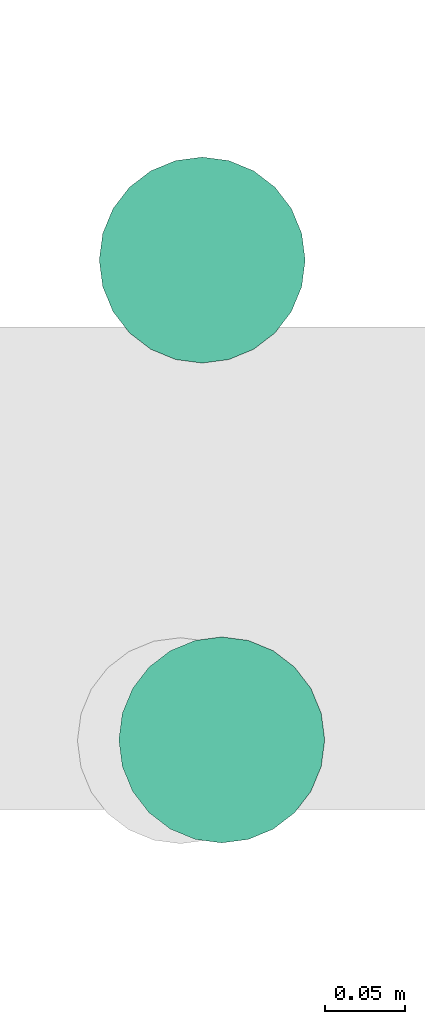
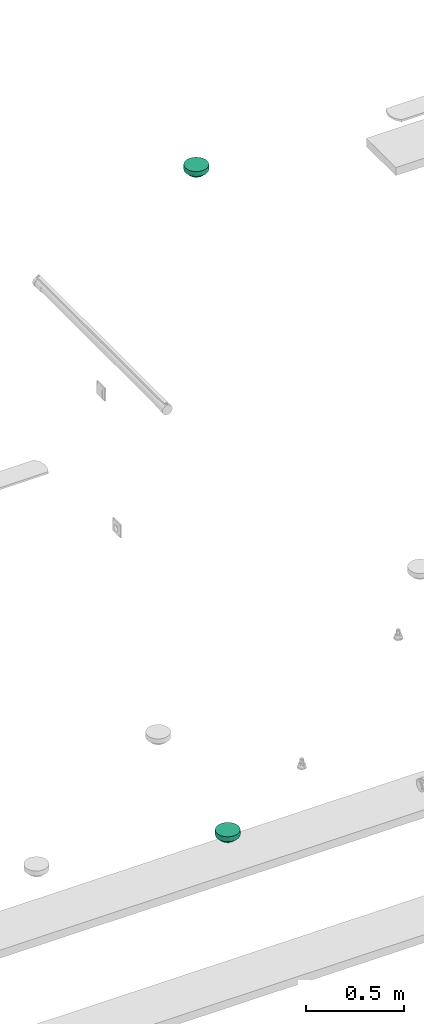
# One storey, part 66 of 153: 4 flow terminals.
"""IFC2X3 building model written with IfcOpenShell, lengths in metres."""

from ifc_helpers import new_model, entity, si_unit, converted_unit, derived_unit, direction, frame, origin, place, context, subcontext, project, spatial, faceted_brep, source, transform, mapped, type_object, type_shapes, element, save


model = new_model("IFC2X3")

# Units and contexts
model_context = context("Model", 3, precision=1e-05, world=origin(), true_north=direction((6.12303176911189e-17, 1.0)))
body_context = subcontext(model_context, "Body", "Model", "MODEL_VIEW")
ifc_project = project(units=[si_unit("LENGTHUNIT", "METRE"), si_unit("AREAUNIT", "SQUARE_METRE"), si_unit("VOLUMEUNIT", "CUBIC_METRE"), converted_unit("PLANEANGLEUNIT", "DEGREE", entity("IfcRatioMeasure", 0.0174532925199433), si_unit("PLANEANGLEUNIT", "RADIAN"), dimensions=[0, 0, 0, 0, 0, 0, 0]), si_unit("MASSUNIT", "GRAM", prefix="KILO"), derived_unit("MASSDENSITYUNIT", [(si_unit("MASSUNIT", "GRAM", prefix="KILO"), 1), (si_unit("LENGTHUNIT", "METRE"), -3)]), si_unit("TIMEUNIT", "SECOND"), si_unit("FREQUENCYUNIT", "HERTZ"), si_unit("THERMODYNAMICTEMPERATUREUNIT", "DEGREE_CELSIUS"), derived_unit("THERMALTRANSMITTANCEUNIT", [(si_unit("MASSUNIT", "GRAM", prefix="KILO"), 1), (si_unit("THERMODYNAMICTEMPERATUREUNIT", "KELVIN"), -1), (si_unit("TIMEUNIT", "SECOND"), -3)]), derived_unit("VOLUMETRICFLOWRATEUNIT", [(si_unit("LENGTHUNIT", "METRE"), 3), (si_unit("TIMEUNIT", "SECOND"), -1)]), si_unit("ELECTRICCURRENTUNIT", "AMPERE"), si_unit("ELECTRICVOLTAGEUNIT", "VOLT"), si_unit("POWERUNIT", "WATT"), si_unit("FORCEUNIT", "NEWTON"), si_unit("ILLUMINANCEUNIT", "LUX"), si_unit("LUMINOUSFLUXUNIT", "LUMEN"), si_unit("LUMINOUSINTENSITYUNIT", "CANDELA"), derived_unit("USERDEFINED", [(si_unit("MASSUNIT", "GRAM", prefix="KILO"), -1), (si_unit("LENGTHUNIT", "METRE"), -2), (si_unit("TIMEUNIT", "SECOND"), 3), (si_unit("LUMINOUSFLUXUNIT", "LUMEN"), 1)]), derived_unit("LINEARVELOCITYUNIT", [(si_unit("LENGTHUNIT", "METRE"), 1), (si_unit("TIMEUNIT", "SECOND"), -1)]), si_unit("PRESSUREUNIT", "PASCAL"), derived_unit("USERDEFINED", [(si_unit("LENGTHUNIT", "METRE"), -2), (si_unit("MASSUNIT", "GRAM", prefix="KILO"), 1), (si_unit("TIMEUNIT", "SECOND"), -2)])], contexts=[model_context])

# Site, building, storey
site_placement = place(None, origin())
site = spatial("IfcSite", under=ifc_project, at=site_placement, Name="Default", CompositionType="ELEMENT")
building_placement = place(site_placement, origin())
building = spatial("IfcBuilding", under=site, at=building_placement, CompositionType="ELEMENT")
storey_placement = place(building_placement, frame((0.0, 0.0, -4.62)))
storey = spatial("IfcBuildingStorey", under=building, at=storey_placement, Name="S02", CompositionType="ELEMENT", Elevation=-4.62)

# Flow terminals
light_fixture_type = type_object("IfcLightFixtureType", Name="Détecteur 360°", PredefinedType="NOTDEFINED")
shared_shape = source(origin(), body_context, "Body", "Brep", [
    faceted_brep([(0.0, -0.0397165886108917, 0.0531256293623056), (0.0, -0.034524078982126, 0.0563702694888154), (-0.0175153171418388, -0.0435914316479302, 0.0478512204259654), (-0.0194029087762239, -0.000878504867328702, 0.0644483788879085), (0.0, 0.0, 0.0669999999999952), (0.0, 0.00603476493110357, 0.0659648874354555), (-0.0174057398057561, -0.0159851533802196, 0.0630502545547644), (-0.0366619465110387, -0.0127227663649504, 0.0549213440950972), (-0.026998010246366, -0.0195753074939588, 0.0584711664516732), (-0.0202403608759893, -0.0335607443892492, 0.054639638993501), (-0.0359767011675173, -0.0348394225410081, 0.0444249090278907), (-0.0276843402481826, -0.0401006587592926, 0.0459804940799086), (-0.0133088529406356, -0.0517577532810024, 0.0400582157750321), (-0.0172617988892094, -0.0486391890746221, 0.042533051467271), (-0.0256912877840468, -0.0533485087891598, 0.0299999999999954), (-0.0462941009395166, -0.0369183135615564, 0.0299999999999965), (0.0, -0.0241390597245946, 0.0628595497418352), (-0.0186245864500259, -0.0267295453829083, 0.0589100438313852), (-0.0139070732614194, -0.0374370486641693, 0.0540817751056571), (0.0, 0.0449090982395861, 0.049880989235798), (-0.0172618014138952, 0.0486391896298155, 0.0425330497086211), (0.0, 0.0397165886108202, 0.0531256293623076), (-0.0186245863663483, 0.0267295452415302, 0.0589100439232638), (-0.0202403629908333, 0.0335607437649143, 0.054639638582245), (-0.0353547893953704, 0.0284533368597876, 0.0494330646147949), (0.0, 0.0120695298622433, 0.0649297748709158), (-0.0249385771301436, 0.0204731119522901, 0.0590841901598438), (-0.0191783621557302, 0.0150189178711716, 0.062775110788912), (-0.0465404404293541, -0.0196510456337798, 0.0438984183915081), (-0.052010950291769, -0.0250471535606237, 0.029999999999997), (-0.0453471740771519, -0.0286501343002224, 0.0397747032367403), (-0.0365036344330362, -0.0226255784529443, 0.0516441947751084), (-0.0175153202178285, 0.0435914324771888, 0.0478512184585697), (-0.0359926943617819, 0.0451334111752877, 0.0299999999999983), (-0.0276843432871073, 0.0401006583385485, 0.0459804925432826), (-0.00849704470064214, -0.0572729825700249, 0.0299999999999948), (0.0, -0.0592123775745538, 0.0299999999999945), (0.0, -0.0545512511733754, 0.0364787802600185), (0.0, -0.049890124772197, 0.0429575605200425), (-0.0169940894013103, -0.055333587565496, 0.0299999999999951), (-0.0359767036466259, 0.0348394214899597, 0.0444249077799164), (-0.025691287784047, 0.0533485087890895, 0.0299999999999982), (-0.0308419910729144, 0.0492409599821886, 0.0299999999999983), (-0.0130265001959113, 0.0514867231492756, 0.040526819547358), (-0.0169940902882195, 0.0553335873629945, 0.029999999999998), (0.0, 0.0498901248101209, 0.0429575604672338), (-0.0353547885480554, -0.0284533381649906, 0.0494330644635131), (0.0, 0.0181042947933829, 0.0638946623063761), (-0.0473669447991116, -0.00128092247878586, 0.0474310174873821), (-0.0485435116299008, -0.00908961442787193, 0.0452357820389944), (-0.0366597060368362, -0.0032867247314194, 0.0563153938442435), (-0.0226425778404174, -0.0107553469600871, 0.0624973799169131), (0.0, -0.00603476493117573, 0.0659648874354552), (0.0, 0.0293315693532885, 0.0596149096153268), (-0.0139070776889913, 0.0374370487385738, 0.0540817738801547), (-0.0449600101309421, 0.018422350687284, 0.0461366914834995), (-0.0453471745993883, 0.0286501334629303, 0.0397747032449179), (-0.0476906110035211, 0.00670602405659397, 0.0466053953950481), (-0.0577277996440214, 0.0131759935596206, 0.0299999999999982), (-0.0577277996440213, 0.00658799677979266, 0.029999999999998), (-0.0577277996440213, 0.0, 0.0299999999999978), (0.0, -0.0449090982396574, 0.0498809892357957), (-0.0308419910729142, -0.049240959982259, 0.0299999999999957), (-0.0359926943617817, -0.0451334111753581, 0.029999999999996), (0.0, 0.0345240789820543, 0.0563702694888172), (-0.0411433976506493, 0.0410258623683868, 0.0299999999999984), (-0.0462941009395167, 0.0369183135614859, 0.0299999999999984), (-0.0491525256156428, -0.03098273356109, 0.0299999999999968), (-0.0577277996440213, -0.0131759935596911, 0.0299999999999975), (0.0, -0.018104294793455, 0.0638946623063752), (-0.0377433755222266, 0.0044838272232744, 0.0554913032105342), (-0.0577277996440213, -0.00658799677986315, 0.0299999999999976), (-0.0385149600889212, 0.0124844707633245, 0.0536578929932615), (-0.0491525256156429, 0.0309827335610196, 0.0299999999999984), (-0.0548693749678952, 0.0191115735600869, 0.0299999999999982), (0.0, 0.0241390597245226, 0.0628595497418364), (-0.014625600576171, 0.0100436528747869, 0.0649170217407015), (-0.0271766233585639, 0.00920278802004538, 0.0609170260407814), (0.0, -0.0120695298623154, 0.0649297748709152), (-0.0520109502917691, 0.0250471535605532, 0.0299999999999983), (-0.0411433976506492, -0.0410258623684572, 0.0299999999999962), (-0.0548693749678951, -0.0191115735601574, 0.0299999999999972), (0.0, -0.0293315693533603, 0.0596149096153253), (0.0, 0.0545512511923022, 0.0364787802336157), (0.0, 0.0592123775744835, 0.0299999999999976), (-0.00849704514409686, 0.057272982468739, 0.0299999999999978), (-0.0127455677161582, 0.0563032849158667, 0.0299999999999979), (-0.0213426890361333, 0.054341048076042, 0.0299999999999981), (0.0175153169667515, 0.0435914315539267, 0.0478512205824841), (0.0194029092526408, 0.000878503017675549, 0.0644483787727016), (0.017405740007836, 0.0159851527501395, 0.0630502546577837), (0.0366619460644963, 0.012722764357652, 0.0549213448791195), (0.0269980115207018, 0.0195753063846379, 0.0584711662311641), (0.0202403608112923, 0.0335607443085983, 0.0546396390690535), (0.0359767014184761, 0.0348394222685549, 0.0444249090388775), (0.0276843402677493, 0.0401006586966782, 0.0459804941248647), (0.0133088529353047, 0.0517577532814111, 0.0400582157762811), (0.0172617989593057, 0.0486391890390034, 0.0425330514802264), (0.0256912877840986, 0.0533485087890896, 0.0299999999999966), (0.0462941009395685, 0.0369183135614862, 0.0299999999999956), (0.00849704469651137, 0.0572729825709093, 0.0299999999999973), (0.0169940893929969, 0.0553335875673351, 0.029999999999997), (0.0172617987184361, -0.0486391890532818, 0.0425330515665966), (0.025691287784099, -0.0533485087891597, 0.0299999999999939), (0.0308419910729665, -0.0492409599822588, 0.0299999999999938), (0.0175153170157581, -0.0435914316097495, 0.0478512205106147), (0.0186245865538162, -0.0267295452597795, 0.0589100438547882), (0.0202403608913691, -0.03356074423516, 0.0546396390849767), (0.0353547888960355, -0.0284533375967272, 0.0494330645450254), (0.0249385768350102, -0.0204731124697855, 0.0590841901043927), (0.0191783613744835, -0.0150189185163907, 0.062775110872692), (0.0465404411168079, 0.0196510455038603, 0.0438984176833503), (0.0577277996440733, 0.0131759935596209, 0.0299999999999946), (0.0548693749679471, 0.0191115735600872, 0.0299999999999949), (0.0520109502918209, 0.0250471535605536, 0.0299999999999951), (0.0365036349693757, 0.0226255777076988, 0.0516441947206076), (0.0186245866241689, 0.0267295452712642, 0.0589100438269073), (0.0359926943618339, -0.0451334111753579, 0.0299999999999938), (0.0276843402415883, -0.0401006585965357, 0.0459804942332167), (0.0139070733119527, 0.0374370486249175, 0.0540817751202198), (0.0359767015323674, -0.0348394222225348, 0.044424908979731), (0.0226425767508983, 0.0107553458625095, 0.0624973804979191), (0.0169940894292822, -0.0553335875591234, 0.0299999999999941), (0.0130264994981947, -0.0514867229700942, 0.0405268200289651), (0.0453471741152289, 0.0286501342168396, 0.039774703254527), (0.0353547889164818, 0.0284533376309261, 0.0494330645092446), (0.0473669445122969, 0.00128092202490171, 0.0474310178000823), (0.0485435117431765, 0.00908961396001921, 0.0452357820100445), (0.0366597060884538, 0.00328672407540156, 0.0563153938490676), (0.0139070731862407, -0.0374370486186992, 0.0540817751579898), (0.0449600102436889, -0.018422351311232, 0.0461366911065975), (0.0453471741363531, -0.0286501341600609, 0.039774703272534), (0.0476906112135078, -0.00670602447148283, 0.046605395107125), (0.0577277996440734, -0.0131759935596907, 0.0299999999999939), (0.0577277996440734, -0.00658799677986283, 0.0299999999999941), (0.0577277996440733, 0.0, 0.0299999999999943), (0.0308419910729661, 0.0492409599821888, 0.0299999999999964), (0.0359926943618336, 0.0451334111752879, 0.0299999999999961), (0.0411433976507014, -0.041025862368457, 0.0299999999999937), (0.0462941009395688, -0.0369183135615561, 0.0299999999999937), (0.0491525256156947, 0.0309827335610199, 0.0299999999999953), (0.037743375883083, -0.00448382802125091, 0.0554913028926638), (0.0577277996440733, 0.00658799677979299, 0.0299999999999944), (0.0385149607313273, -0.0124844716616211, 0.0536578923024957), (0.049152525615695, -0.0309827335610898, 0.0299999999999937), (0.0548693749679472, -0.0191115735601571, 0.0299999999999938), (0.0146256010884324, -0.0100436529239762, 0.0649170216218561), (0.0271766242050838, -0.00920278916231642, 0.0609170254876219), (0.0520109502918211, -0.0250471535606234, 0.0299999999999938), (0.041143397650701, 0.0410258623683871, 0.0299999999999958), (0.00849704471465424, -0.0572729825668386, 0.0299999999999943), (0.0127455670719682, -0.056303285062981, 0.0299999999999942), (0.0213426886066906, -0.0543410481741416, 0.029999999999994), (0.0, 0.0, 0.0299999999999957)], [[[0, 1, 2]], [[3, 4, 5]], [[6, 7, 8]], [[9, 10, 11]], [[12, 13, 14]], [[10, 15, 11]], [[9, 16, 17]], [[18, 9, 11]], [[19, 20, 21]], [[22, 23, 24]], [[25, 26, 27]], [[28, 29, 30]], [[8, 31, 17]], [[32, 33, 34]], [[35, 36, 37, 38, 39]], [[23, 40, 24]], [[20, 41, 42]], [[19, 43, 20]], [[44, 43, 45]], [[20, 32, 21]], [[30, 10, 46]], [[22, 26, 47]], [[48, 49, 50]], [[3, 51, 52]], [[53, 54, 23]], [[55, 24, 56]], [[57, 58, 59, 60]], [[13, 61, 0]], [[13, 0, 2]], [[2, 62, 13]], [[18, 2, 1]], [[2, 11, 63]], [[32, 64, 21]], [[32, 42, 33]], [[34, 33, 65, 66]], [[20, 42, 32]], [[54, 32, 34]], [[28, 30, 31]], [[10, 67, 15]], [[49, 68, 28]], [[8, 17, 69]], [[7, 6, 51]], [[28, 31, 7]], [[57, 48, 70]], [[58, 57, 55]], [[48, 71, 49]], [[70, 48, 50]], [[3, 50, 51]], [[55, 26, 24]], [[72, 57, 70]], [[26, 55, 72]], [[56, 40, 73]], [[56, 74, 55]], [[47, 75, 22]], [[52, 4, 3]], [[7, 50, 49]], [[5, 76, 3]], [[70, 3, 77]], [[51, 78, 52]], [[26, 25, 47]], [[76, 25, 27]], [[23, 22, 75]], [[26, 22, 24]], [[53, 64, 54]], [[23, 34, 40]], [[66, 40, 34]], [[40, 66, 73]], [[56, 73, 79, 74]], [[72, 27, 26]], [[40, 56, 24]], [[23, 75, 53]], [[69, 17, 16]], [[78, 6, 69]], [[46, 10, 9]], [[46, 9, 17]], [[50, 7, 51]], [[30, 29, 67]], [[80, 63, 11, 15]], [[28, 68, 81, 29]], [[10, 30, 67]], [[30, 46, 31]], [[82, 18, 1]], [[82, 16, 9]], [[28, 7, 49]], [[12, 39, 38]], [[61, 13, 12]], [[83, 84, 85, 86, 44, 45]], [[43, 41, 20]], [[44, 87, 41, 43]], [[32, 54, 64]], [[23, 54, 34]], [[9, 18, 82]], [[2, 18, 11]], [[39, 12, 14]], [[38, 61, 12]], [[62, 2, 63]], [[62, 14, 13]], [[17, 31, 46]], [[7, 31, 8]], [[48, 60, 71]], [[71, 68, 49]], [[60, 48, 57]], [[3, 70, 50]], [[72, 70, 77]], [[72, 77, 27]], [[55, 57, 72]], [[74, 58, 55]], [[76, 27, 77]], [[3, 76, 77]], [[25, 76, 5]], [[69, 6, 8]], [[78, 51, 6]], [[45, 43, 19]], [[21, 64, 88]], [[89, 4, 52]], [[90, 91, 92]], [[93, 94, 95]], [[96, 97, 98]], [[94, 99, 95]], [[100, 84, 83, 45, 101]], [[102, 103, 104]], [[102, 105, 0]], [[106, 107, 108]], [[78, 109, 110]], [[111, 112, 113, 114]], [[92, 115, 116]], [[105, 117, 118]], [[119, 93, 95]], [[107, 120, 108]], [[89, 121, 5]], [[122, 123, 38]], [[61, 123, 102]], [[93, 75, 116]], [[124, 94, 125]], [[106, 109, 69]], [[126, 127, 128]], [[61, 102, 0]], [[82, 129, 107]], [[130, 108, 131]], [[132, 133, 134, 135]], [[97, 19, 21]], [[97, 21, 88]], [[88, 136, 97]], [[119, 88, 64]], [[88, 95, 137]], [[105, 1, 0]], [[105, 104, 117]], [[118, 117, 138, 139]], [[102, 104, 105]], [[129, 105, 118]], [[111, 124, 115]], [[94, 140, 99]], [[127, 112, 111]], [[92, 116, 47]], [[91, 90, 121]], [[111, 115, 91]], [[132, 126, 141]], [[133, 132, 130]], [[126, 142, 127]], [[141, 126, 128]], [[89, 128, 121]], [[130, 109, 108]], [[143, 132, 141]], [[109, 130, 143]], [[131, 120, 144]], [[131, 145, 130]], [[69, 16, 106]], [[5, 4, 89]], [[91, 128, 127]], [[52, 146, 89]], [[141, 89, 147]], [[121, 25, 5]], [[109, 78, 69]], [[146, 78, 110]], [[107, 106, 16]], [[109, 106, 108]], [[82, 1, 129]], [[107, 118, 120]], [[139, 120, 118]], [[120, 139, 144]], [[131, 144, 148, 145]], [[143, 110, 109]], [[120, 131, 108]], [[107, 16, 82]], [[47, 116, 75]], [[25, 90, 47]], [[125, 94, 93]], [[125, 93, 116]], [[128, 91, 121]], [[124, 114, 140]], [[149, 137, 95, 99]], [[111, 114, 124]], [[94, 124, 140]], [[124, 125, 115]], [[53, 119, 64]], [[53, 75, 93]], [[111, 91, 127]], [[96, 101, 45]], [[19, 97, 96]], [[37, 36, 150, 151, 122, 38]], [[123, 103, 102]], [[122, 152, 103, 123]], [[105, 129, 1]], [[107, 129, 118]], [[93, 119, 53]], [[88, 119, 95]], [[101, 96, 98]], [[45, 19, 96]], [[136, 88, 137]], [[136, 98, 97]], [[116, 115, 125]], [[91, 115, 92]], [[126, 135, 142]], [[142, 112, 127]], [[135, 126, 132]], [[89, 141, 128]], [[143, 141, 147]], [[143, 147, 110]], [[130, 132, 143]], [[145, 133, 130]], [[146, 110, 147]], [[89, 146, 147]], [[78, 146, 52]], [[47, 90, 92]], [[25, 121, 90]], [[38, 123, 61]], [[153, 66, 65]], [[153, 65, 33]], [[153, 33, 42]], [[153, 42, 41]], [[153, 41, 87]], [[153, 73, 66]], [[153, 79, 73]], [[153, 74, 79]], [[153, 58, 74]], [[153, 87, 44]], [[153, 44, 86]], [[153, 86, 85]], [[153, 85, 84]], [[153, 84, 100]], [[153, 59, 58]], [[153, 60, 59]], [[153, 71, 60]], [[153, 68, 71]], [[153, 81, 68]], [[153, 29, 81]], [[153, 67, 29]], [[153, 15, 67]], [[153, 80, 15]], [[153, 63, 80]], [[153, 62, 63]], [[153, 14, 62]], [[153, 39, 14]], [[153, 35, 39]], [[153, 36, 35]], [[153, 100, 101]], [[153, 101, 98]], [[153, 98, 136]], [[153, 136, 137]], [[153, 137, 149]], [[153, 149, 99]], [[153, 99, 140]], [[153, 140, 114]], [[153, 114, 113]], [[153, 113, 112]], [[153, 112, 142]], [[153, 150, 36]], [[153, 151, 150]], [[153, 122, 151]], [[153, 152, 122]], [[153, 103, 152]], [[153, 104, 103]], [[153, 117, 104]], [[153, 138, 117]], [[153, 139, 138]], [[153, 144, 139]], [[153, 148, 144]], [[153, 145, 148]], [[153, 133, 145]], [[153, 142, 135]], [[153, 135, 134]], [[153, 134, 133]]]),
    faceted_brep([(0.0165644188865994, -0.0618192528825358, 0.029999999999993), (0.0320000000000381, -0.0554256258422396, 0.0299999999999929), (0.0452548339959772, -0.0452548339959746, 0.0299999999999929), (0.0554256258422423, -0.0320000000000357, 0.029999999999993), (0.0618192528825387, -0.016564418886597, 0.0299999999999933), (0.0640000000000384, 0.0, 0.0299999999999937), (0.0618192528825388, 0.016564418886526, 0.0299999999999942), (0.0554256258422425, 0.0319999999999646, 0.0299999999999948), (0.0452548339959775, 0.0452548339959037, 0.0299999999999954), (0.0320000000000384, 0.0554256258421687, 0.0299999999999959), (0.0165644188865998, 0.061819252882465, 0.0299999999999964), (0.0, 0.0639999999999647, 0.0299999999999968), (-0.0165644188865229, 0.061819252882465, 0.0299999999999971), (-0.0319999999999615, 0.0554256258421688, 0.0299999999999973), (-0.0452548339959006, 0.0452548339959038, 0.0299999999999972), (-0.0554256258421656, 0.0319999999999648, 0.0299999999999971), (-0.0618192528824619, 0.0165644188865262, 0.0299999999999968), (-0.0639999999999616, 0.0, 0.0299999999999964), (-0.061819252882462, -0.0165644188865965, 0.0299999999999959), (-0.0554256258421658, -0.0320000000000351, 0.0299999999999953), (-0.0452548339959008, -0.0452548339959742, 0.0299999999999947), (-0.0319999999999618, -0.0554256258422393, 0.0299999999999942), (-0.0165644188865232, -0.0618192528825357, 0.0299999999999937), (0.0, -0.0640000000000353, 0.0299999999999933), (0.0165644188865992, 0.0618192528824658, 0.0), (0.0320000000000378, 0.0554256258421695, 0.0), (0.0452548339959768, 0.0452548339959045, 0.0), (0.0554256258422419, 0.0319999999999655, 0.0), (0.0618192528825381, 0.0165644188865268, 0.0), (0.0640000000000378, 0.0, 0.0), (0.061819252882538, -0.0165644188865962, 0.0), (0.0554256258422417, -0.0320000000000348, 0.0), (0.0452548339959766, -0.0452548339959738, 0.0), (0.0320000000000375, -0.0554256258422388, 0.0), (0.0165644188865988, -0.061819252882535, 0.0), (0.0, -0.0640000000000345, 0.0), (-0.0165644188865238, -0.0618192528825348, 0.0), (-0.0319999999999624, -0.0554256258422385, 0.0), (-0.0452548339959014, -0.0452548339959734, 0.0), (-0.0554256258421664, -0.0320000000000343, 0.0), (-0.0618192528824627, -0.0165644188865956, 0.0), (-0.0639999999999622, 0.0, 0.0), (-0.0618192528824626, 0.016564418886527, 0.0), (-0.0554256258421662, 0.0319999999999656, 0.0), (-0.0452548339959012, 0.0452548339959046, 0.0), (-0.0319999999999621, 0.0554256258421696, 0.0), (-0.0165644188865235, 0.0618192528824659, 0.0), (0.0, 0.0639999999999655, 0.0)], [[[0, 1, 2, 3, 4, 5, 6, 7, 8, 9, 10, 11, 12, 13, 14, 15, 16, 17, 18, 19, 20, 21, 22, 23]], [[24, 25, 26, 27, 28, 29, 30, 31, 32, 33, 34, 35, 36, 37, 38, 39, 40, 41, 42, 43, 44, 45, 46, 47]], [[40, 18, 17, 41]], [[39, 19, 18, 40]], [[21, 20, 38, 37]], [[39, 38, 20, 19]], [[22, 21, 37, 36]], [[23, 22, 36, 35]], [[34, 0, 23, 35]], [[33, 1, 0, 34]], [[3, 2, 32, 31]], [[33, 32, 2, 1]], [[4, 3, 31, 30]], [[5, 4, 30, 29]], [[28, 6, 5, 29]], [[27, 7, 6, 28]], [[9, 8, 26, 25]], [[27, 26, 8, 7]], [[10, 9, 25, 24]], [[11, 10, 24, 47]], [[46, 12, 11, 47]], [[45, 13, 12, 46]], [[42, 41, 17, 16]], [[44, 14, 13, 45]], [[43, 15, 14, 44]], [[43, 42, 16, 15]]]),
])
type_shapes(light_fixture_type, [shared_shape])
for number, where, z_axis, x_axis in (
    (1, (45.5154544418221, -194.497539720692, 4.62), (0.0, 0.0, -1.0), (1.0, 0.0, 0.0)),
    (2, (45.5154544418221, -194.497539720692, 4.62), (0.0, 0.0, -1.0), (1.0, 0.0, 0.0)),
    (3, (45.5154544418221, -194.497539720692, 4.62), (0.0, 0.0, -1.0), (1.0, 0.0, 0.0)),
    (4, (45.5032996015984, -194.19927093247, 8.569), (0.0, 0.0, -1.0), (1.0, 0.0, 0.0)),
):
    element("IfcFlowTerminal", number, at=place(storey_placement, frame(where, z_axis=z_axis, x_axis=x_axis)), inside=storey, type_object=light_fixture_type, Name="INT - Détecteur 360°:Détecteur 360°", ObjectType="INT - Détecteur 360°:Détecteur 360°", context=body_context, shape_type="MappedRepresentation", body=[
        mapped(shared_shape, transform((0.0, 0.0, 0.0), scale=1.0)),
    ])

save(model, "model.ifc")
